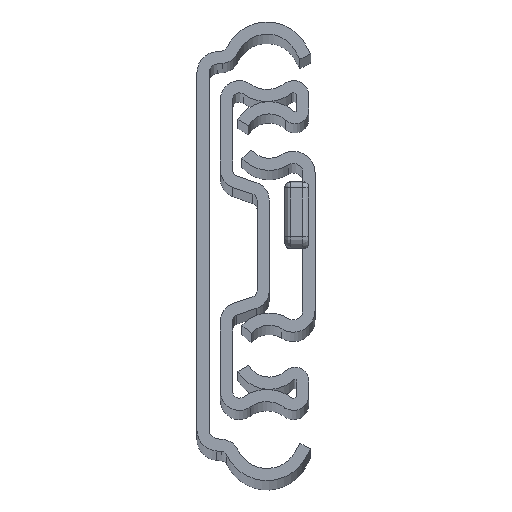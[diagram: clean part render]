
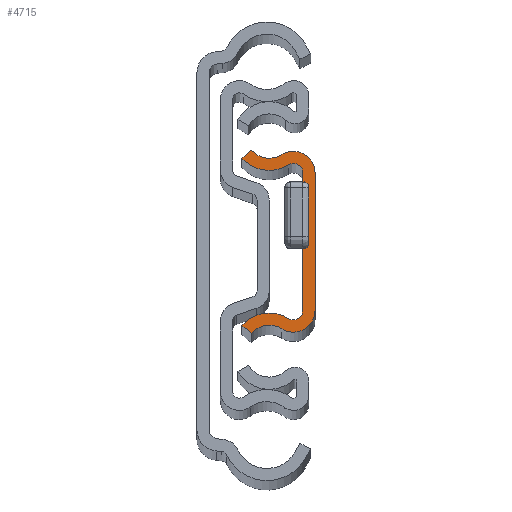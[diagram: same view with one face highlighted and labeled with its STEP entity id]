
A CAD part, top view. The second image highlights one B-rep face of the part: STEP entity #4715.
In plain terms, the highlighted planar face has unit normal (0, 0, 1).
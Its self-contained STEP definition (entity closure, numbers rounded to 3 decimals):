
#280 = VERTEX_POINT ( 'NONE', #22752 ) ;
#282 = DIRECTION ( 'NONE',  ( 1., 0., 0. ) ) ;
#883 = LINE ( 'NONE', #26248, #6168 ) ;
#918 = VECTOR ( 'NONE', #28664, 1000. ) ;
#1081 = EDGE_CURVE ( 'NONE', #20809, #10566, #9718, .T. ) ;
#1404 = EDGE_CURVE ( 'NONE', #8858, #17215, #18124, .T. ) ;
#1487 = CARTESIAN_POINT ( 'NONE',  ( -1.532, -17.658, 0. ) ) ;
#1730 = EDGE_CURVE ( 'NONE', #10566, #280, #883, .T. ) ;
#1966 = LINE ( 'NONE', #8404, #918 ) ;
#2725 = AXIS2_PLACEMENT_3D ( 'NONE', #3419, #14826, #28483 ) ;
#2889 = CIRCLE ( 'NONE', #23291, 5.949 ) ;
#3120 = DIRECTION ( 'NONE',  ( -1., 0., 0. ) ) ;
#3419 = CARTESIAN_POINT ( 'NONE',  ( -1.532, 17.658, 0. ) ) ;
#3863 = VERTEX_POINT ( 'NONE', #7872 ) ;
#3960 = DIRECTION ( 'NONE',  ( 0., 0., -1. ) ) ;
#4065 = ORIENTED_EDGE ( 'NONE', *, *, #21220, .T. ) ;
#4502 = VERTEX_POINT ( 'NONE', #28694 ) ;
#4715 = ADVANCED_FACE ( 'Face2', ( #28412 ), #18025, .T. ) ;
#4864 = EDGE_CURVE ( 'NONE', #15276, #8858, #13272, .T. ) ;
#4875 = ORIENTED_EDGE ( 'NONE', *, *, #28133, .T. ) ;
#5192 = DIRECTION ( 'NONE',  ( 0., 0., 1. ) ) ;
#5372 = AXIS2_PLACEMENT_3D ( 'NONE', #1487, #3960, #19660 ) ;
#5460 = CARTESIAN_POINT ( 'NONE',  ( -1.532, 17.658, 0. ) ) ;
#5711 = EDGE_CURVE ( 'NONE', #27631, #23238, #1966, .T. ) ;
#6168 = VECTOR ( 'NONE', #12720, 1000. ) ;
#6195 = VECTOR ( 'NONE', #18301, 1000. ) ;
#6343 = VECTOR ( 'NONE', #22215, 1000. ) ;
#7750 = ORIENTED_EDGE ( 'NONE', *, *, #1081, .T. ) ;
#7872 = CARTESIAN_POINT ( 'NONE',  ( 1.625, -12.615, 0. ) ) ;
#8080 = CARTESIAN_POINT ( 'NONE',  ( -4.498, 15.051, 0. ) ) ;
#8404 = CARTESIAN_POINT ( 'NONE',  ( -4.498, -15.051, 0. ) ) ;
#8491 = CARTESIAN_POINT ( 'NONE',  ( 6., 0., 0. ) ) ;
#8858 = VERTEX_POINT ( 'NONE', #22832 ) ;
#9092 = ORIENTED_EDGE ( 'NONE', *, *, #24676, .T. ) ;
#9117 = DIRECTION ( 'NONE',  ( 0., 0., 1. ) ) ;
#9118 = ORIENTED_EDGE ( 'NONE', *, *, #1404, .T. ) ;
#9415 = DIRECTION ( 'NONE',  ( 1., 0., 0. ) ) ;
#9528 = CARTESIAN_POINT ( 'NONE',  ( 2.448, -11.3, 0. ) ) ;
#9718 = CIRCLE ( 'NONE', #2725, 3.949 ) ;
#9774 = ORIENTED_EDGE ( 'NONE', *, *, #26005, .T. ) ;
#9947 = DIRECTION ( 'NONE',  ( 0., 0., -1. ) ) ;
#10360 = AXIS2_PLACEMENT_3D ( 'NONE', #27696, #5192, #9415 ) ;
#10454 = CARTESIAN_POINT ( 'NONE',  ( 0.563, 14.311, 0. ) ) ;
#10566 = VERTEX_POINT ( 'NONE', #8080 ) ;
#11368 = DIRECTION ( 'NONE',  ( -1., 0., 0. ) ) ;
#11757 = DIRECTION ( 'NONE',  ( -1., 0., 0. ) ) ;
#11919 = ORIENTED_EDGE ( 'NONE', *, *, #1730, .T. ) ;
#12106 = CARTESIAN_POINT ( 'NONE',  ( 6., 11.3, 0. ) ) ;
#12208 = CIRCLE ( 'NONE', #19687, 1.552 ) ;
#12480 = ORIENTED_EDGE ( 'NONE', *, *, #20002, .T. ) ;
#12720 = DIRECTION ( 'NONE',  ( -0.751, -0.66, 0. ) ) ;
#12992 = ORIENTED_EDGE ( 'NONE', *, *, #19017, .T. ) ;
#13272 = CIRCLE ( 'NONE', #16508, 1.552 ) ;
#14208 = DIRECTION ( 'NONE',  ( 0., 0., -1. ) ) ;
#14405 = DIRECTION ( 'NONE',  ( 0., 0., 1. ) ) ;
#14450 = VERTEX_POINT ( 'NONE', #21465 ) ;
#14483 = EDGE_LOOP ( 'NONE', ( #9774, #4065, #12480, #7750, #11919, #4875, #26328, #9118, #20852, #12992, #23011, #9092 ) ) ;
#14766 = CARTESIAN_POINT ( 'NONE',  ( 2.448, -11.3, 0. ) ) ;
#14826 = DIRECTION ( 'NONE',  ( 0., 0., -1. ) ) ;
#14912 = EDGE_CURVE ( 'NONE', #17215, #3863, #12208, .T. ) ;
#15216 = CIRCLE ( 'NONE', #22048, 3.552 ) ;
#15276 = VERTEX_POINT ( 'NONE', #20329 ) ;
#15359 = CIRCLE ( 'NONE', #5372, 3.949 ) ;
#16174 = CARTESIAN_POINT ( 'NONE',  ( 2.448, 11.3, 0. ) ) ;
#16508 = AXIS2_PLACEMENT_3D ( 'NONE', #16540, #14208, #3120 ) ;
#16540 = CARTESIAN_POINT ( 'NONE',  ( 2.448, 11.3, 0. ) ) ;
#17215 = VERTEX_POINT ( 'NONE', #24943 ) ;
#18025 = PLANE ( 'NONE',  #25319 ) ;
#18124 = LINE ( 'NONE', #27452, #6195 ) ;
#18301 = DIRECTION ( 'NONE',  ( 0., -1., 0. ) ) ;
#18546 = VERTEX_POINT ( 'NONE', #12106 ) ;
#19017 = EDGE_CURVE ( 'NONE', #3863, #27631, #27909, .T. ) ;
#19660 = DIRECTION ( 'NONE',  ( 1., 0., 0. ) ) ;
#19687 = AXIS2_PLACEMENT_3D ( 'NONE', #14766, #9947, #26016 ) ;
#19814 = CARTESIAN_POINT ( 'NONE',  ( -4.498, -15.051, 0. ) ) ;
#20002 = EDGE_CURVE ( 'NONE', #18546, #20809, #15216, .T. ) ;
#20329 = CARTESIAN_POINT ( 'NONE',  ( 1.625, 12.615, 0. ) ) ;
#20809 = VERTEX_POINT ( 'NONE', #10454 ) ;
#20852 = ORIENTED_EDGE ( 'NONE', *, *, #14912, .T. ) ;
#20952 = CARTESIAN_POINT ( 'NONE',  ( -6., -13.73, 0. ) ) ;
#21220 = EDGE_CURVE ( 'NONE', #14450, #18546, #22153, .T. ) ;
#21465 = CARTESIAN_POINT ( 'NONE',  ( 6., -11.3, 0. ) ) ;
#22048 = AXIS2_PLACEMENT_3D ( 'NONE', #16174, #9117, #11368 ) ;
#22153 = LINE ( 'NONE', #8491, #6343 ) ;
#22215 = DIRECTION ( 'NONE',  ( 0., 1., 0. ) ) ;
#22741 = CARTESIAN_POINT ( 'NONE',  ( 2.448, -11.3, 0. ) ) ;
#22752 = CARTESIAN_POINT ( 'NONE',  ( -6., 13.73, 0. ) ) ;
#22832 = CARTESIAN_POINT ( 'NONE',  ( 4., 11.3, 0. ) ) ;
#23011 = ORIENTED_EDGE ( 'NONE', *, *, #5711, .T. ) ;
#23238 = VERTEX_POINT ( 'NONE', #19814 ) ;
#23291 = AXIS2_PLACEMENT_3D ( 'NONE', #5460, #14405, #11757 ) ;
#24676 = EDGE_CURVE ( 'NONE', #23238, #4502, #15359, .T. ) ;
#24684 = DIRECTION ( 'NONE',  ( 0., 0., 1. ) ) ;
#24943 = CARTESIAN_POINT ( 'NONE',  ( 4., -11.3, 0. ) ) ;
#25121 = AXIS2_PLACEMENT_3D ( 'NONE', #9528, #27400, #282 ) ;
#25319 = AXIS2_PLACEMENT_3D ( 'NONE', #22741, #24684, #27269 ) ;
#26005 = EDGE_CURVE ( 'NONE', #4502, #14450, #27287, .T. ) ;
#26016 = DIRECTION ( 'NONE',  ( 1., 0., 0. ) ) ;
#26248 = CARTESIAN_POINT ( 'NONE',  ( -4.498, 15.051, 0. ) ) ;
#26328 = ORIENTED_EDGE ( 'NONE', *, *, #4864, .T. ) ;
#27269 = DIRECTION ( 'NONE',  ( 1., 0., 0. ) ) ;
#27287 = CIRCLE ( 'NONE', #25121, 3.552 ) ;
#27400 = DIRECTION ( 'NONE',  ( 0., 0., 1. ) ) ;
#27452 = CARTESIAN_POINT ( 'NONE',  ( 4., 0., 0. ) ) ;
#27631 = VERTEX_POINT ( 'NONE', #20952 ) ;
#27696 = CARTESIAN_POINT ( 'NONE',  ( -1.532, -17.658, 0. ) ) ;
#27909 = CIRCLE ( 'NONE', #10360, 5.949 ) ;
#28133 = EDGE_CURVE ( 'NONE', #280, #15276, #2889, .T. ) ;
#28412 = FACE_OUTER_BOUND ( 'NONE', #14483, .T. ) ;
#28483 = DIRECTION ( 'NONE',  ( -1., 0., 0. ) ) ;
#28664 = DIRECTION ( 'NONE',  ( 0.751, -0.66, 0. ) ) ;
#28694 = CARTESIAN_POINT ( 'NONE',  ( 0.563, -14.311, 0. ) ) ;
